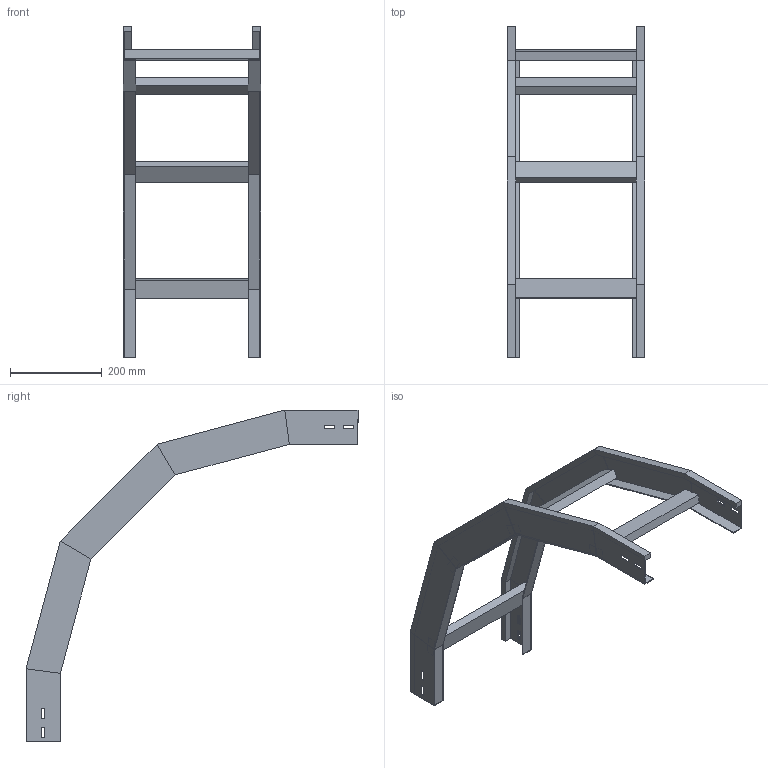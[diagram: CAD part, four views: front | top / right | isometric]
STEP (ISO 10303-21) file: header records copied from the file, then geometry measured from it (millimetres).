
FILE_DESCRIPTION (( 'STEP AP214' ), '1' );
FILE_NAME ('33B5C300.step', '2025-02-21T15:04:40', ( '' ), ( '' ), 'SwSTEP 2.0', 'SolidWorks 2023', '' );
FILE_SCHEMA (( 'AUTOMOTIVE_DESIGN' ));
Length unit declared in the file: millimetre
Products named in the file (3): LONGH.DISCESA_90°_H75_R500; TRAVERSINO_300; 33B5C300
Assembly tree (6 placements, depth 2):
  33B5C300
    LONGH.DISCESA_90°_H75_R500  x2
    TRAVERSINO_300  x4
Bounding box: 300 x 725.35 x 725.35 mm (x, y, z)
Volume: 1861437.3 mm3; surface area: 683800 mm2
Topology: 6 solids, 6 shells, 140 faces, 320 edges, 192 vertices
Faces by surface type: plane 140
Entity records: 1872 total; most frequent: CARTESIAN_POINT 309, ORIENTED_EDGE 296, DIRECTION 294, EDGE_CURVE 148, VECTOR 148, LINE 148, VERTEX_POINT 88, AXIS2_PLACEMENT_3D 73
